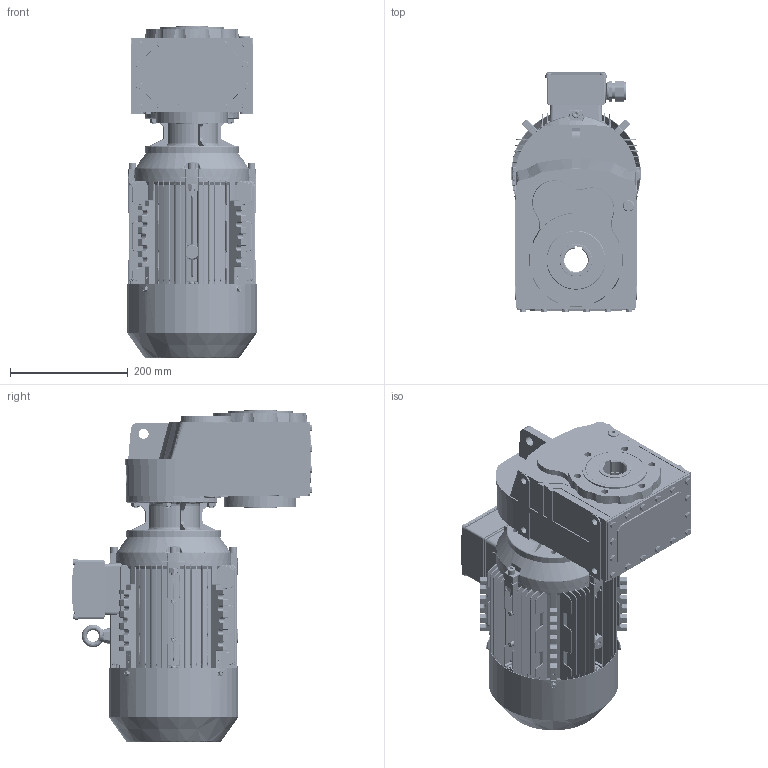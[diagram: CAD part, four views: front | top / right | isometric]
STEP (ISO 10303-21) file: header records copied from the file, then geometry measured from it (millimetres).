
FILE_DESCRIPTION (( 'STEP AP203' ), '1' );
FILE_NAME ('DV_283_0_MX3-112.STEP', '2018-11-19T07:39:19', ( '' ), ( '' ), 'SwSTEP 2.0', 'SolidWorks 2012', '' );
FILE_SCHEMA (( 'CONFIG_CONTROL_DESIGN' ));
Products named in the file (26): DV_283_0_MX3-112; DMX-IE3 112 Flange; MX3-112_B14; DMX-IE3 112  cable glands_3; hexagon flange head tapping screws gb_GB_SQUARE_AND_HEXAGON_TYPE137 ST4.8X9.5 C-N_3; eyebolts gb_GB_FASTENER_SCREWS_FRS M8-N_3; cross recessed pan head screws gb_GB_CROSS_SCREWS_TYPE1 M5X12-12  H type-N_3; DMX-IE3 112terminal box base_3; DMX-IE3 112terminal box cover_3; plain parallel keys_GB_CONNECTING_PIECE_KEYS_CSK 8X50_3; DMX-IE3 112   fan cover_3; hexagon socket head cap screws gb_GB_FASTENER_SCREWS_HSHCS M8X40-N_3; DMX-IE3 112 fan_3; circlips for shaft--type a large gb_GB_CONNECTING_PIECE_RING_RRA 28_3; spring lock washers--normal type gb_GB_FASTENER_WASHER_SW 8_3; hexagon nuts grade c gb_GB_FASTENER_NUT_SNC1 M8-N_3; deep groove ball bearings gb_Rolling bearings 6306 GB 276-94_3; DMX-IE3 112M4  oil seal_3; deep groove ball bearings gb_Rolling bearings 6206 GB 276-94_3; DMX-IE3 oil seal_3; ML109A_Varsayìlan; DMX-IE3 112 shield_3; DMX-IE3 112 shaft_3; DMX-IE3 112M4 casing_3; D283_Varsayìlan; 23100B14_Varsayìlan
Assembly tree (54 placements, depth 3):
  DV_283_0_MX3-112
    D283_Varsayìlan
    23100B14_Varsayìlan
    ML109A_Varsayìlan
    MX3-112_B14
      DMX-IE3 112M4 casing_3
      DMX-IE3 112 shaft_3
      DMX-IE3 112 shield_3
      deep groove ball bearings gb_Rolling bearings 6306 GB 276-94_3
      deep groove ball bearings gb_Rolling bearings 6206 GB 276-94_3
      DMX-IE3 112M4  oil seal_3
      DMX-IE3 oil seal_3
      DMX-IE3 112 fan_3
      circlips for shaft--type a large gb_GB_CONNECTING_PIECE_RING_RRA 28_3
      spring lock washers--normal type gb_GB_FASTENER_WASHER_SW 8_3  x8
      hexagon nuts grade c gb_GB_FASTENER_NUT_SNC1 M8-N_3  x8
      hexagon socket head cap screws gb_GB_FASTENER_SCREWS_HSHCS M8X40-N_3  x8
      DMX-IE3 112   fan cover_3
      plain parallel keys_GB_CONNECTING_PIECE_KEYS_CSK 8X50_3
      DMX-IE3 112terminal box base_3
      DMX-IE3 112terminal box cover_3
      cross recessed pan head screws gb_GB_CROSS_SCREWS_TYPE1 M5X12-12  H type-N_3  x4
      eyebolts gb_GB_FASTENER_SCREWS_FRS M8-N_3
      hexagon flange head tapping screws gb_GB_SQUARE_AND_HEXAGON_TYPE137 ST4.8X9.5 C-N_3  x5
      DMX-IE3 112  cable glands_3  x2
      DMX-IE3 112 Flange
Bounding box: 219.16 x 407.48 x 562.75 mm (x, y, z)
Volume: 9307522.3 mm3; surface area: 1799450.6 mm2
Topology: 53 solids, 59 shells, 7313 faces, 18924 edges, 11609 vertices
Faces by surface type: plane 2677, cylinder 1985, bspline 1642, cone 788, torus 111, sphere 110
Entity records: 279420 total; most frequent: CARTESIAN_POINT 124087, ORIENTED_EDGE 34402, DIRECTION 28336, EDGE_CURVE 17204, VERTEX_POINT 10656, AXIS2_PLACEMENT_3D 10318, VECTOR 7700, LINE 7700
